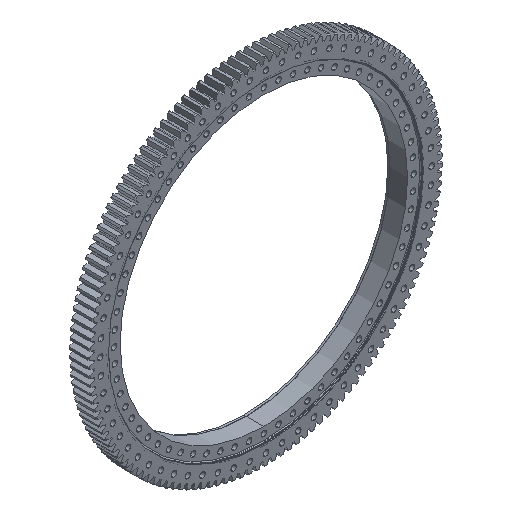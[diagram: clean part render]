
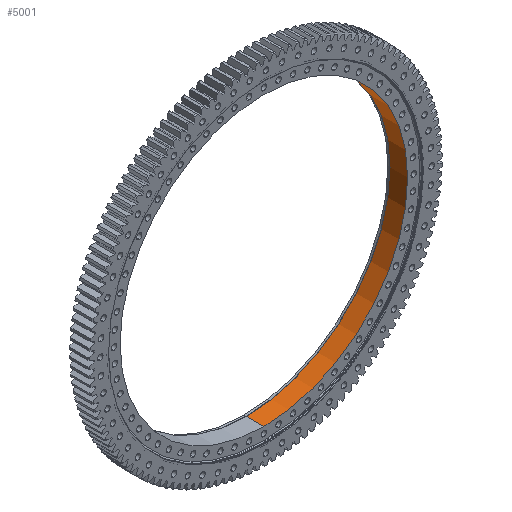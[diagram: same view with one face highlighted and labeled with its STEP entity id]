
A CAD part, isometric view. The second image highlights one B-rep face of the part: STEP entity #5001.
In plain terms, the highlighted cylindrical face has radius 685.5 mm (diameter 1371 mm), a partial arc.
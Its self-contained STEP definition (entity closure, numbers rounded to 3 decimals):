
#2050 = ORIENTED_EDGE ( 'NONE', *, *, #30298, .T. ) ;
#3555 = FACE_OUTER_BOUND ( 'NONE', #38688, .T. ) ;
#3649 = DIRECTION ( 'NONE',  ( 0., -1., 0. ) ) ;
#4239 = LINE ( 'NONE', #22998, #4822 ) ;
#4822 = VECTOR ( 'NONE', #28809, 1000. ) ;
#5001 = ADVANCED_FACE ( 'NONE', ( #3555 ), #25132, .F. ) ;
#5807 = ORIENTED_EDGE ( 'NONE', *, *, #28134, .F. ) ;
#6818 = CIRCLE ( 'NONE', #13220, 685.5 ) ;
#9219 = EDGE_CURVE ( 'NONE', #21991, #20007, #37207, .T. ) ;
#9701 = DIRECTION ( 'NONE',  ( 0., 0., -1. ) ) ;
#9797 = CARTESIAN_POINT ( 'NONE',  ( 0., 0., 0. ) ) ;
#10247 = VERTEX_POINT ( 'NONE', #38818 ) ;
#13220 = AXIS2_PLACEMENT_3D ( 'NONE', #27738, #18081, #27536 ) ;
#16604 = CARTESIAN_POINT ( 'NONE',  ( 0., -15.145, -685.5 ) ) ;
#18081 = DIRECTION ( 'NONE',  ( 0., -1., 0. ) ) ;
#18709 = CARTESIAN_POINT ( 'NONE',  ( 0., 0., 685.5 ) ) ;
#20007 = VERTEX_POINT ( 'NONE', #35750 ) ;
#21580 = AXIS2_PLACEMENT_3D ( 'NONE', #24830, #3649, #9701 ) ;
#21914 = DIRECTION ( 'NONE',  ( 0., -1., 0. ) ) ;
#21991 = VERTEX_POINT ( 'NONE', #30972 ) ;
#22998 = CARTESIAN_POINT ( 'NONE',  ( 0., 0., -685.5 ) ) ;
#24830 = CARTESIAN_POINT ( 'NONE',  ( 0., -15.145, 0. ) ) ;
#25132 = CYLINDRICAL_SURFACE ( 'NONE', #32664, 685.5 ) ;
#25760 = VECTOR ( 'NONE', #21914, 1000. ) ;
#25911 = DIRECTION ( 'NONE',  ( 0., -1., 0. ) ) ;
#27536 = DIRECTION ( 'NONE',  ( 0., 0., -1. ) ) ;
#27738 = CARTESIAN_POINT ( 'NONE',  ( 0., -100.145, 0. ) ) ;
#28134 = EDGE_CURVE ( 'NONE', #37412, #21991, #36370, .T. ) ;
#28809 = DIRECTION ( 'NONE',  ( 0., -1., 0. ) ) ;
#29705 = EDGE_CURVE ( 'NONE', #37412, #10247, #4239, .T. ) ;
#30298 = EDGE_CURVE ( 'NONE', #10247, #20007, #6818, .T. ) ;
#30972 = CARTESIAN_POINT ( 'NONE',  ( 0., -15.145, 685.5 ) ) ;
#32664 = AXIS2_PLACEMENT_3D ( 'NONE', #9797, #25911, #35171 ) ;
#35171 = DIRECTION ( 'NONE',  ( 0., 0., -1. ) ) ;
#35750 = CARTESIAN_POINT ( 'NONE',  ( 0., -100.145, 685.5 ) ) ;
#36370 = CIRCLE ( 'NONE', #21580, 685.5 ) ;
#37207 = LINE ( 'NONE', #18709, #25760 ) ;
#37412 = VERTEX_POINT ( 'NONE', #16604 ) ;
#38688 = EDGE_LOOP ( 'NONE', ( #39816, #5807, #39859, #2050 ) ) ;
#38818 = CARTESIAN_POINT ( 'NONE',  ( 0., -100.145, -685.5 ) ) ;
#39816 = ORIENTED_EDGE ( 'NONE', *, *, #9219, .F. ) ;
#39859 = ORIENTED_EDGE ( 'NONE', *, *, #29705, .T. ) ;
